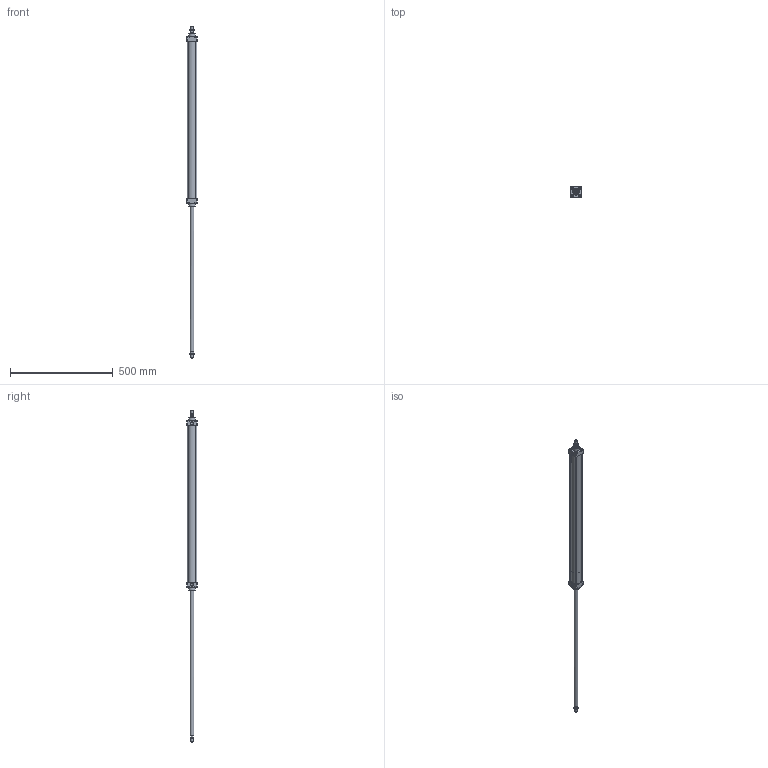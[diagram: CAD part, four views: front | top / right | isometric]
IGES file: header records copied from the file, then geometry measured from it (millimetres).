
Global section: file name: 130#_040_0700_02A; native system: Autodesk Inventor 2014; preprocessor: unknown; author: A. Manieri; date: 20161123.143827; units: millimetre
Bounding box: 52 x 52 x 1614 mm (x, y, z)
Volume: 926982.7 mm3; surface area: 394238 mm2
Topology: 10 solids, 10 shells, 187 faces, 467 edges, 314 vertices
Faces by surface type: bspline 187
